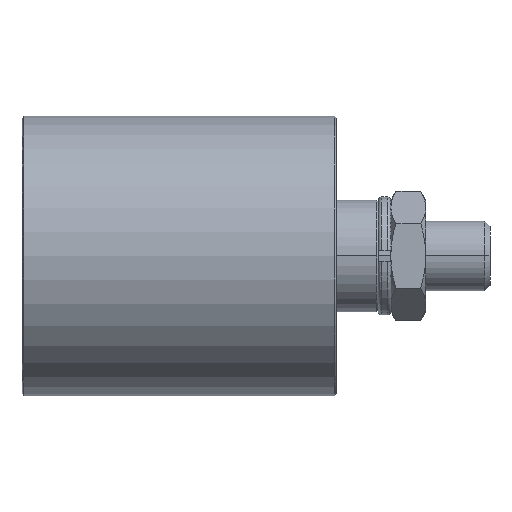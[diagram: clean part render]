
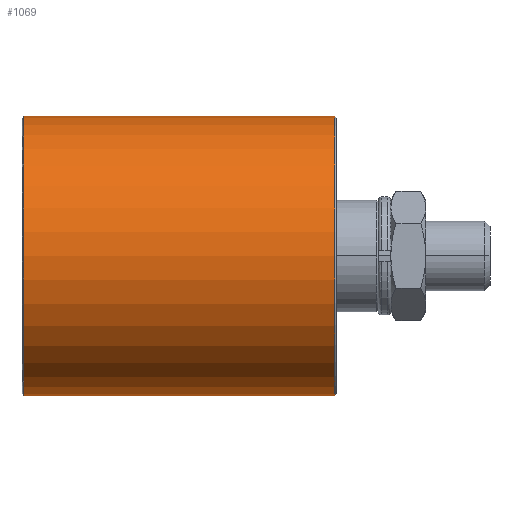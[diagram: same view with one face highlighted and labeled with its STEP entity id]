
A CAD part, top view. The second image highlights one B-rep face of the part: STEP entity #1069.
In plain terms, the highlighted cylindrical face has radius 20 mm (diameter 40 mm), a partial arc.
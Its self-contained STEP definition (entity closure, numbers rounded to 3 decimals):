
#61 = ORIENTED_EDGE ( 'NONE', *, *, #3906, .F. ) ;
#135 = CARTESIAN_POINT ( 'NONE',  ( 0., 22.5, 20. ) ) ;
#449 = ORIENTED_EDGE ( 'NONE', *, *, #3970, .T. ) ;
#678 = CIRCLE ( 'NONE', #2365, 20. ) ;
#1069 = ADVANCED_FACE ( 'NONE', ( #1175 ), #1665, .T. ) ;
#1097 = DIRECTION ( 'NONE',  ( 0., 0., -1. ) ) ;
#1175 = FACE_OUTER_BOUND ( 'NONE', #3645, .T. ) ;
#1262 = EDGE_CURVE ( 'NONE', #4013, #2413, #678, .T. ) ;
#1520 = DIRECTION ( 'NONE',  ( 0., -1., 0. ) ) ;
#1665 = CYLINDRICAL_SURFACE ( 'NONE', #2684, 20. ) ;
#1725 = DIRECTION ( 'NONE',  ( 0., -1., 0. ) ) ;
#1742 = CARTESIAN_POINT ( 'NONE',  ( 0., -22.25, 20. ) ) ;
#1777 = DIRECTION ( 'NONE',  ( 0., -1., 0. ) ) ;
#1924 = VECTOR ( 'NONE', #1520, 1000. ) ;
#2095 = DIRECTION ( 'NONE',  ( 0., 0., 1. ) ) ;
#2106 = CARTESIAN_POINT ( 'NONE',  ( 0., -22.25, -20. ) ) ;
#2180 = VERTEX_POINT ( 'NONE', #3904 ) ;
#2239 = CARTESIAN_POINT ( 'NONE',  ( 0., -22.25, 0. ) ) ;
#2365 = AXIS2_PLACEMENT_3D ( 'NONE', #2239, #3322, #2592 ) ;
#2366 = ORIENTED_EDGE ( 'NONE', *, *, #2849, .T. ) ;
#2413 = VERTEX_POINT ( 'NONE', #1742 ) ;
#2504 = CARTESIAN_POINT ( 'NONE',  ( 0., 22.5, 0. ) ) ;
#2592 = DIRECTION ( 'NONE',  ( 0., 0., 1. ) ) ;
#2684 = AXIS2_PLACEMENT_3D ( 'NONE', #2504, #2893, #1097 ) ;
#2749 = CARTESIAN_POINT ( 'NONE',  ( 0., 22.25, 20. ) ) ;
#2800 = VECTOR ( 'NONE', #1725, 1000. ) ;
#2815 = CARTESIAN_POINT ( 'NONE',  ( 0., 22.25, 0. ) ) ;
#2849 = EDGE_CURVE ( 'NONE', #2180, #4013, #2969, .T. ) ;
#2893 = DIRECTION ( 'NONE',  ( 0., -1., 0. ) ) ;
#2940 = ORIENTED_EDGE ( 'NONE', *, *, #1262, .T. ) ;
#2969 = LINE ( 'NONE', #4118, #2800 ) ;
#3281 = CIRCLE ( 'NONE', #4418, 20. ) ;
#3322 = DIRECTION ( 'NONE',  ( 0., 1., 0. ) ) ;
#3645 = EDGE_LOOP ( 'NONE', ( #61, #449, #2366, #2940 ) ) ;
#3904 = CARTESIAN_POINT ( 'NONE',  ( 0., 22.25, -20. ) ) ;
#3906 = EDGE_CURVE ( 'NONE', #4041, #2413, #4451, .T. ) ;
#3970 = EDGE_CURVE ( 'NONE', #4041, #2180, #3281, .T. ) ;
#4013 = VERTEX_POINT ( 'NONE', #2106 ) ;
#4041 = VERTEX_POINT ( 'NONE', #2749 ) ;
#4118 = CARTESIAN_POINT ( 'NONE',  ( 0., 22.5, -20. ) ) ;
#4418 = AXIS2_PLACEMENT_3D ( 'NONE', #2815, #1777, #2095 ) ;
#4451 = LINE ( 'NONE', #135, #1924 ) ;
